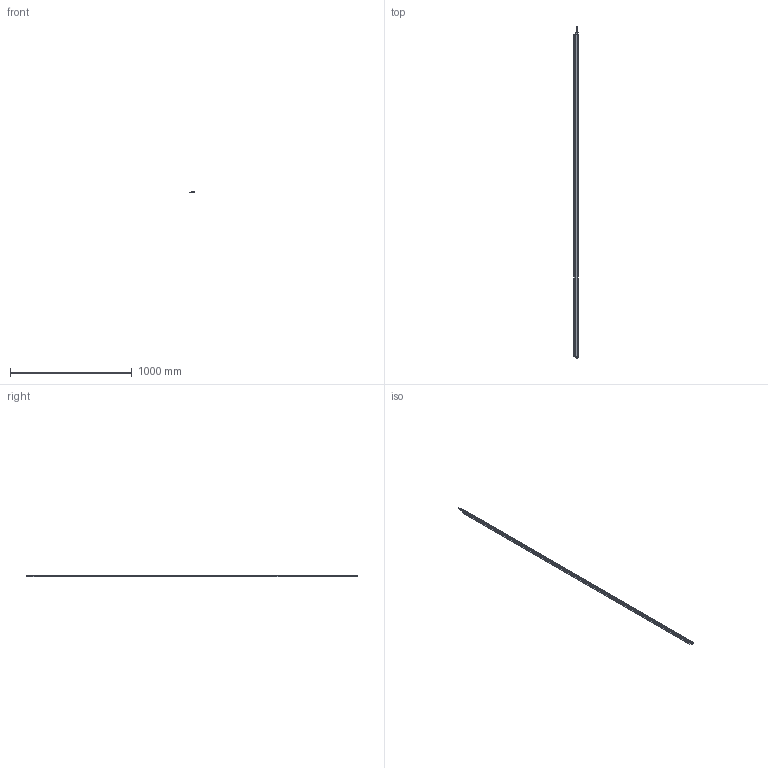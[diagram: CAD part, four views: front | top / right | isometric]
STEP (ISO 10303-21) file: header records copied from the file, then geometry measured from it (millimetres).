
FILE_DESCRIPTION (( 'STEP AP214' ), '1' );
FILE_NAME ('ILGA-L-K2-2670mm.STEP', '2026-04-25T08:28:30', ( '' ), ( '' ), 'SwSTEP 2.0', 'SolidWorks 2025', '' );
FILE_SCHEMA (( 'AUTOMOTIVE_DESIGN' ));
Length unit declared in the file: millimetre
Products named in the file (1): ILGA-L-K2-2670mm
Bounding box: 35 x 2724.5 x 10.7 mm (x, y, z)
Surface area: 412765.5 mm2 (no closed solid volume)
Topology: 0 solids, 13 shells, 931 faces, 2444 edges, 1515 vertices
Faces by surface type: cylinder 380, plane 343, cone 86, bspline 56, torus 50, sphere 16
Entity records: 41246 total; most frequent: CARTESIAN_POINT 8504, ORIENTED_EDGE 4769, DIRECTION 4682, EDGE_CURVE 2392, AXIS2_PLACEMENT_3D 1797, VERTEX_POINT 1515, LINE 1088, VECTOR 1088
